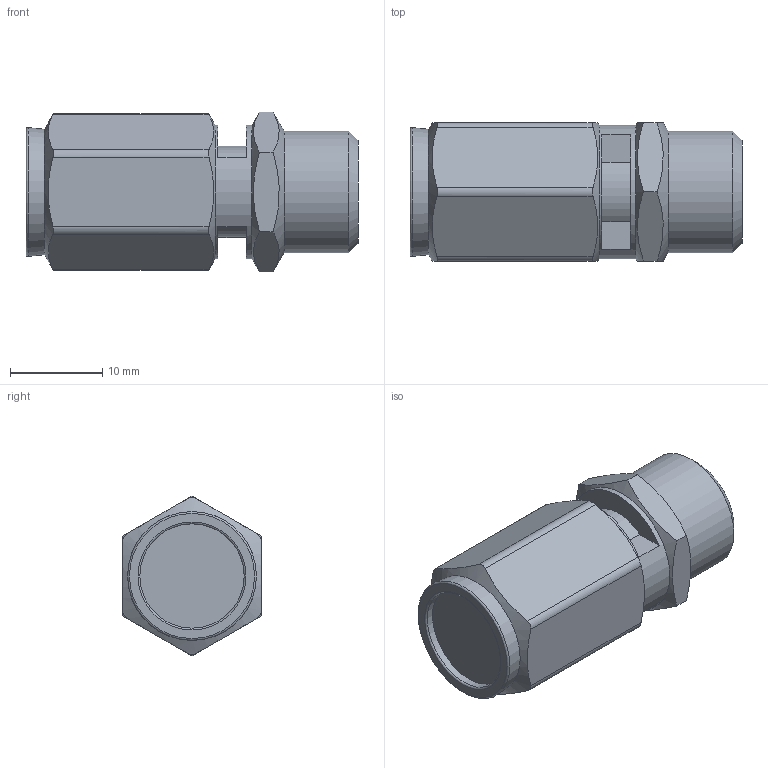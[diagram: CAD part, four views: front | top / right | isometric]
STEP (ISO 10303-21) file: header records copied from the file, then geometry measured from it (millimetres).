
FILE_DESCRIPTION(/* description */ (''),/* implementation_level */ '2;1');
FILE_NAME(/* name */ 'S:\_Tecnico\ArchivioUT\_Disegni3D ingombri\DISEGNI 3D per ingombri\RV\RV100814.stp',/* time_stamp */ '2020-10-30T11:12:24+01:00',/* author */ ('UfficioTecnico'),/* organization */ (''),/* preprocessor_version */ 'ST-DEVELOPER v18',/* originating_system */ 'Autodesk Inventor 2020',/* authorisation */ '');
FILE_SCHEMA (('AUTOMOTIVE_DESIGN { 1 0 10303 214 3 1 1 }'));
Length unit declared in the file: millimetre
Products named in the file (1): RV100814
Bounding box: 36 x 15 x 17.32 mm (x, y, z)
Volume: 5654.7 mm3; surface area: 2420.5 mm2
Topology: 1 solids, 1 shells, 45 faces, 123 edges, 84 vertices
Faces by surface type: plane 24, cylinder 12, cone 7, torus 2
Full cylindrical faces by diameter (mm): 6 x1, 11.3 x1, 13.157 x1, 14.5 x1
Entity records: 1544 total; most frequent: CARTESIAN_POINT 411, ORIENTED_EDGE 246, DIRECTION 217, EDGE_CURVE 123, AXIS2_PLACEMENT_3D 86, VERTEX_POINT 84, EDGE_LOOP 49, FACE_OUTER_BOUND 45
